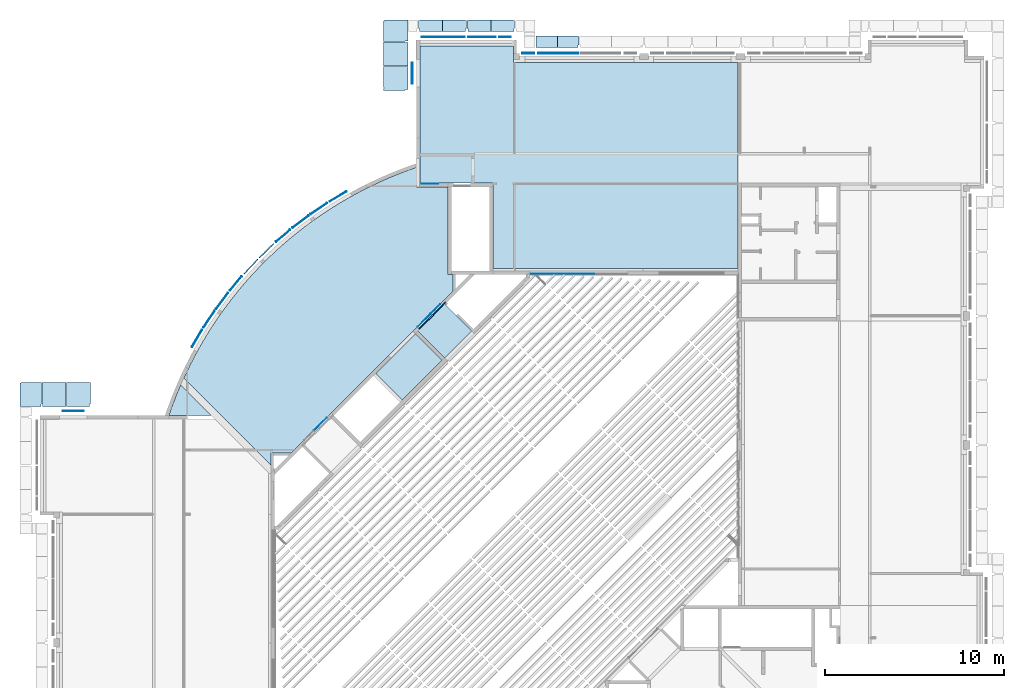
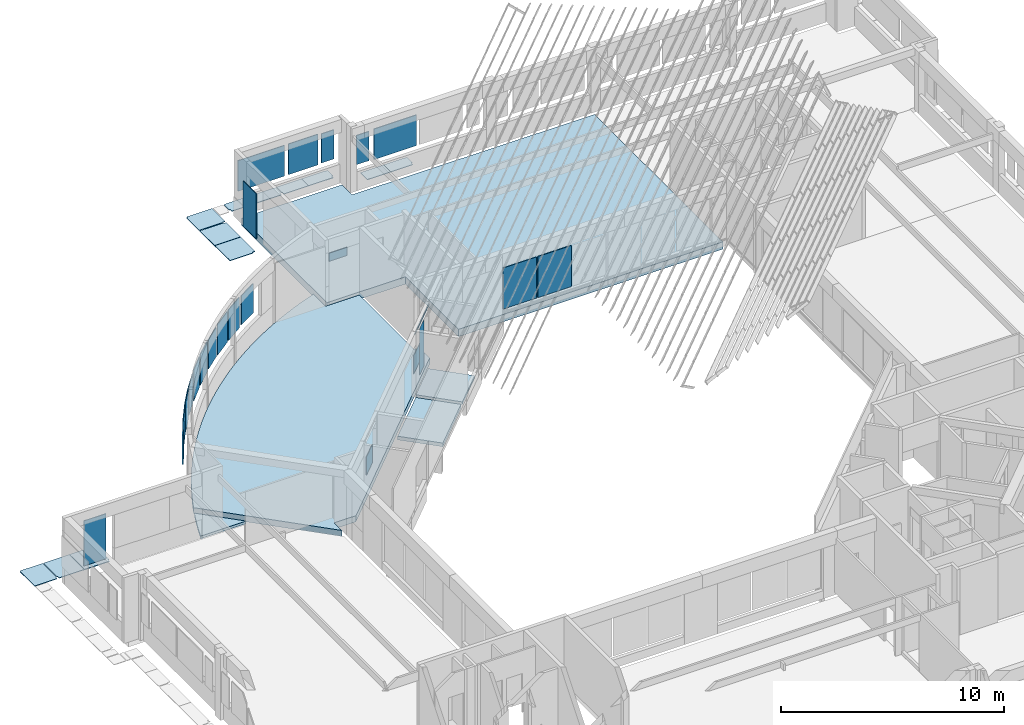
# One storey, part 20 of 37: 24 plates, 17 slabs, 1 element without a shape of its own.
"""IFC4X3_ADD2 building model written with IfcOpenShell, lengths in millimetres."""

from ifc_helpers import new_model, si_unit, point, direction, frame, frame_2d, origin_with_axes, origin_2d_with_axis, place, context, subcontext, project, spatial, polyline, circle_curve, trimmed, segment, composite_curve, rectangle, outline, extrude, source, transform, mapped, material, type_object, element, aggregate, save


model = new_model("IFC4X3_ADD2")

# Units and contexts
model_context = context("Model", 3, precision=1e-05, world=origin_with_axes(), true_north=direction((0.0, 1.0)))
body_context = subcontext(model_context, "Body", "Model", "MODEL_VIEW")
ifc_project = project(units=[si_unit("LENGTHUNIT", "METRE", prefix="MILLI"), si_unit("AREAUNIT", "SQUARE_METRE"), si_unit("VOLUMEUNIT", "CUBIC_METRE"), si_unit("PLANEANGLEUNIT", "RADIAN"), si_unit("TIMEUNIT", "SECOND"), si_unit("MASSUNIT", "GRAM")], contexts=[model_context])

# Site, building, storey
site_placement = place(None, origin_with_axes())
site = spatial("IfcSite", under=ifc_project, at=site_placement, Name="Site", CompositionType="ELEMENT")
building_placement = place(site_placement, origin_with_axes())
building = spatial("IfcBuilding", under=site, at=building_placement, Name="IFC Building Story")
storey_placement = place(building_placement, frame((0.0, 0.0, 3600.0), z_axis=(0.0, 0.0, 1.0), x_axis=(1.0, 0.0, 0.0)))
storey = spatial("IfcBuildingStorey", under=building, at=storey_placement, Name="010", Elevation=3600.0)

# Slabs
ifc_material_1 = material(Name="BB_Beton_Bestaand")
slab_type_1 = type_object("IfcSlabType", Name="BB_Beton_Bestaand 200", PredefinedType="FLOOR", material=ifc_material_1)
slab_1_placement = place(storey_placement, frame((-30719.00667860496, 35293.98755288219, -400.0), z_axis=(0.0, 0.0, 1.0), x_axis=(-0.7071067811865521, -0.707106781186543, 0.0)))
element("IfcSlab", 1, at=slab_1_placement, inside=storey, type_object=slab_type_1, Name="Floor:BB_XX_Vloer uit beton, 200 mm", ObjectType="Floor:BB_XX_Vloer uit beton, 200 mm", PredefinedType="FLOOR", context=body_context, shape_type="SweptSolid", body=[
    extrude(rectangle(XDim=3139.999999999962, YDim=2099.99999999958, at=frame_2d((0.0, 0.0), x_axis=(-1.0, 0.0))), frame((1569.999999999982, 1049.999999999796, 0.0), z_axis=(0.0, 0.0, 1.0), x_axis=(1.0, 0.0, 0.0)), (0.0, 0.0, 1.0), 200.0),
])
slab_type_2 = type_object("IfcSlabType", Name="BB_Beton_Bestaand 400", PredefinedType="FLOOR", material=ifc_material_1)
slab_2_placement = place(storey_placement, frame((-30470.00000006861, 38945.00000000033, -600.0), z_axis=(0.0, 0.0, 1.0), x_axis=(1.0, 0.0, 0.0)))
element("IfcSlab", 2, at=slab_2_placement, inside=storey, type_object=slab_type_2, Name="Floor:BB_XX_Vloer welfsels, 400 mm", ObjectType="Floor:BB_XX_Vloer welfsels, 400 mm", PredefinedType="FLOOR", context=body_context, shape_type="SweptSolid", body=[
    extrude(outline(polyline([(-2692.49898351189, -7168.749999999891), (-2692.498983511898, -2413.749999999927), (-6762.498983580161, -2413.749999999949), (-6762.498983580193, 5241.24999999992), (-1552.498983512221, 5241.249999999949), (-1552.498983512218, 4341.249999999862), (11007.49695060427, 4341.24999999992), (11007.49695060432, -7168.749999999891), (-2692.49898351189, -7168.749999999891)])), frame((6762.49898358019, 7168.749999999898, 0.0), z_axis=(0.0, 0.0, 1.0), x_axis=(1.0, 0.0, 0.0)), (0.0, 0.0, 1.0), 400.0),
])

# Plates
ifc_material_2 = material(Name="BB_Metaal_Aluminium_Buitenschrijnwerk")
shared_shape_1 = source(origin_with_axes(), body_context, "Body", "SweptSolid", [
    extrude(rectangle(XDim=2473.0, YDim=1164.000000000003, at=frame_2d((0.0, 0.0), x_axis=(0.0, 1.0))), frame((0.0, 0.0, -44.0), z_axis=(0.0, 0.0, 1.0), x_axis=(1.0, 0.0, 0.0)), (0.0, 0.0, 1.0), 44.0),
])
plate_1_placement = place(storey_placement, frame((-30932.4999999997, 49845.0, 1323.49999999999), z_axis=(-1.0, 0.0, 0.0), x_axis=(0.0, 1.0, 0.0)))
element("IfcPlate", 3, at=plate_1_placement, inside=storey, material=ifc_material_2, Name="BB_07.06_Buitenbeglazing, rechthoekig_GMO:07.04.63#01_Vulpaneel, 44 mm", ObjectType="BB_07.06_Buitenbeglazing, rechthoekig_GMO:07.04.63#01_Vulpaneel, 44 mm", PredefinedType="USERDEFINED", context=body_context, shape_type="MappedRepresentation", body=[
    mapped(shared_shape_1, transform((0.0, 0.0, 0.0))),
])
shared_shape_2 = source(origin_with_axes(), body_context, "Body", "SweptSolid", [
    extrude(rectangle(XDim=2473.0, YDim=1164.000000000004, at=frame_2d((0.0, 0.0), x_axis=(0.0, 1.0))), frame((0.0, 0.0, -44.0), z_axis=(0.0, 0.0, 1.0), x_axis=(1.0, 0.0, 0.0)), (0.0, 0.0, 1.0), 44.0),
])
plate_2_placement = place(storey_placement, frame((-49845.0, 30997.5000000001, 1323.49999999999), z_axis=(0.0, 1.0, 0.0), x_axis=(-1.0, 0.0, 0.0)))
element("IfcPlate", 4, at=plate_2_placement, inside=storey, material=ifc_material_2, Name="BB_07.06_Buitenbeglazing, rechthoekig_GMO:07.04.63#01_Vulpaneel, 44 mm", ObjectType="BB_07.06_Buitenbeglazing, rechthoekig_GMO:07.04.63#01_Vulpaneel, 44 mm", PredefinedType="USERDEFINED", context=body_context, shape_type="MappedRepresentation", body=[
    mapped(shared_shape_2, transform((0.0, 0.0, 0.0))),
])
ifc_material_3 = material(Name="BB_Glas")
shared_shape_3 = source(origin_with_axes(), body_context, "Body", "SweptSolid", [
    extrude(rectangle(XDim=1602.000000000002, YDim=652.000000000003, at=frame_2d((0.0, 0.0), x_axis=(0.0, 1.0))), frame((0.0, 0.0, -44.0), z_axis=(0.0, 0.0, 1.0), x_axis=(1.0, 0.0, 0.0)), (0.0, 0.0, 1.0), 44.0),
])
plate_3_placement = place(storey_placement, frame((-25729.0, 51887.5000000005, 1765.0), z_axis=(0.0, 1.0, 0.0), x_axis=(-1.0, 0.0, 0.0)))
element("IfcPlate", 5, at=plate_3_placement, inside=storey, material=ifc_material_3, Name="BB_07.06_Buitenbeglazing, rechthoekig_GMO:07.06.72#01_Drievoudige beglazing, 44 mm, A/A*/A", ObjectType="BB_07.06_Buitenbeglazing, rechthoekig_GMO:07.06.72#01_Drievoudige beglazing, 44 mm, A/A*/A", PredefinedType="USERDEFINED", context=body_context, shape_type="MappedRepresentation", body=[
    mapped(shared_shape_3, transform((0.0, 0.0, 0.0))),
])
shared_shape_4 = source(origin_with_axes(), body_context, "Body", "SweptSolid", [
    extrude(rectangle(XDim=1602.000000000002, YDim=652.0000000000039, at=frame_2d((0.0, 0.0), x_axis=(0.0, 1.0))), frame((0.0, 0.0, -44.0), z_axis=(0.0, 0.0, 1.0), x_axis=(1.0, 0.0, 0.0)), (0.0, 0.0, 1.0), 44.0),
])
plate_4_placement = place(storey_placement, frame((-24421.0, 50987.5000000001, 1765.0), z_axis=(0.0, 1.0, 0.0), x_axis=(1.0, 0.0, 0.0)))
element("IfcPlate", 6, at=plate_4_placement, inside=storey, material=ifc_material_3, Name="BB_07.06_Buitenbeglazing, rechthoekig_GMO:07.06.72#01_Drievoudige beglazing, 44 mm, A/A*/A", ObjectType="BB_07.06_Buitenbeglazing, rechthoekig_GMO:07.06.72#01_Drievoudige beglazing, 44 mm, A/A*/A", PredefinedType="USERDEFINED", context=body_context, shape_type="MappedRepresentation", body=[
    mapped(shared_shape_4, transform((0.0, 0.0, 0.0))),
])
shared_shape_5 = source(origin_with_axes(), body_context, "Body", "SweptSolid", [
    extrude(rectangle(XDim=1680.000000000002, YDim=1532.000000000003, at=frame_2d((0.0, 0.0), x_axis=(0.0, 1.0))), frame((0.0, 0.0, -44.0), z_axis=(0.0, 0.0, 1.0), x_axis=(1.0, 0.0, 0.0)), (0.0, 0.0, 1.0), 44.0),
])
plate_5_placement = place(storey_placement, frame((-26999.0, 51887.5000000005, 1765.0), z_axis=(0.0, 1.0, 0.0), x_axis=(-1.0, 0.0, 0.0)))
element("IfcPlate", 7, at=plate_5_placement, inside=storey, material=ifc_material_3, Name="BB_07.06_Buitenbeglazing, rechthoekig_GMO:07.06.72#01_Drievoudige beglazing, 44 mm, A/A*/A", ObjectType="BB_07.06_Buitenbeglazing, rechthoekig_GMO:07.06.72#01_Drievoudige beglazing, 44 mm, A/A*/A", PredefinedType="USERDEFINED", context=body_context, shape_type="MappedRepresentation", body=[
    mapped(shared_shape_5, transform((0.0, 0.0, 0.0))),
])
shared_shape_6 = source(origin_with_axes(), body_context, "Body", "SweptSolid", [
    extrude(rectangle(XDim=2400.0, YDim=1680.000000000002, at=origin_2d_with_axis()), frame((0.0, 0.0, -44.0), z_axis=(0.0, 0.0, 1.0), x_axis=(1.0, 0.0, 0.0)), (0.0, 0.0, 1.0), 44.0),
])
plate_6_placement = place(storey_placement, frame((-29165.0, 51887.5000000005, 1765.0), z_axis=(0.0, 1.0, 0.0), x_axis=(-1.0, 0.0, 0.0)))
element("IfcPlate", 8, at=plate_6_placement, inside=storey, material=ifc_material_3, Name="BB_07.06_Buitenbeglazing, rechthoekig_GMO:07.06.72#01_Drievoudige beglazing, 44 mm, A/A*/A", ObjectType="BB_07.06_Buitenbeglazing, rechthoekig_GMO:07.06.72#01_Drievoudige beglazing, 44 mm, A/A*/A", PredefinedType="USERDEFINED", context=body_context, shape_type="MappedRepresentation", body=[
    mapped(shared_shape_6, transform((0.0, 0.0, 0.0))),
])
shared_shape_7 = source(origin_with_axes(), body_context, "Body", "SweptSolid", [
    extrude(rectangle(XDim=2222.0, YDim=1680.000000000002, at=origin_2d_with_axis()), frame((0.0, 0.0, -44.0), z_axis=(0.0, 0.0, 1.0), x_axis=(1.0, 0.0, 0.0)), (0.0, 0.0, 1.0), 44.0),
])
plate_7_placement = place(storey_placement, frame((-22746.0, 50987.5000000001, 1765.0), z_axis=(0.0, 1.0, 0.0), x_axis=(1.0, 0.0, 0.0)))
element("IfcPlate", 9, at=plate_7_placement, inside=storey, material=ifc_material_3, Name="BB_07.06_Buitenbeglazing, rechthoekig_GMO:07.06.72#01_Drievoudige beglazing, 44 mm, A/A*/A", ObjectType="BB_07.06_Buitenbeglazing, rechthoekig_GMO:07.06.72#01_Drievoudige beglazing, 44 mm, A/A*/A", PredefinedType="USERDEFINED", context=body_context, shape_type="MappedRepresentation", body=[
    mapped(shared_shape_7, transform((0.0, 0.0, 0.0))),
])
shared_shape_8 = source(origin_with_axes(), body_context, "Body", "SweptSolid", [
    extrude(rectangle(XDim=1680.000000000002, YDim=1108.000000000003, at=frame_2d((0.0, 0.0), x_axis=(0.0, 1.0))), frame((0.0, 0.0, -44.0), z_axis=(0.0, 0.0, 1.0), x_axis=(1.0, 0.0, 0.0)), (0.0, 0.0, 1.0), 44.0),
])
for number, where, z_axis, x_axis in (
    (10, (-39063.4324800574, 39946.1443111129, 1765.0), (-0.6895881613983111, 0.7242017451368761, 0.0), (-0.7242017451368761, -0.6895881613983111, 0.0)),
    (11, (-37157.2787877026, 41567.0720494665, 1765.0), (-0.6041911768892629, 0.7968393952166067, 0.0), (-0.7968393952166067, -0.6041911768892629, 0.0)),
    (12, (-36138.2706404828, 42296.187213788, 1765.0), (-0.5591648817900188, 0.8290564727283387, 0.0), (-0.8290564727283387, -0.5591648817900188, 0.0)),
):
    element("IfcPlate", number, at=place(storey_placement, frame(where, z_axis=z_axis, x_axis=x_axis)), inside=storey, material=ifc_material_3, Name="BB_07.06_Buitenbeglazing, rechthoekig_GMO:07.06.72#01_Drievoudige beglazing, 44 mm, A/A*/A", ObjectType="BB_07.06_Buitenbeglazing, rechthoekig_GMO:07.06.72#01_Drievoudige beglazing, 44 mm, A/A*/A", PredefinedType="USERDEFINED", context=body_context, shape_type="MappedRepresentation", body=[
        mapped(shared_shape_8, transform((0.0, 0.0, 0.0))),
    ])
shared_shape_9 = source(origin_with_axes(), body_context, "Body", "SweptSolid", [
    extrude(rectangle(XDim=1602.000000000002, YDim=1030.000000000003, at=frame_2d((0.0, 0.0), x_axis=(0.0, 1.0))), frame((0.0, 0.0, -44.0), z_axis=(0.0, 0.0, 1.0), x_axis=(1.0, 0.0, 0.0)), (0.0, 0.0, 1.0), 44.0),
])
plate_8_placement = place(storey_placement, frame((-38131.9654502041, 40784.1719647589, 1765.0), z_axis=(-0.647662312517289, 0.761927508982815, 0.0), x_axis=(-0.761927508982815, -0.647662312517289, 0.0)))
element("IfcPlate", 13, at=plate_8_placement, inside=storey, material=ifc_material_3, Name="BB_07.06_Buitenbeglazing, rechthoekig_GMO:07.06.72#01_Drievoudige beglazing, 44 mm, A/A*/A", ObjectType="BB_07.06_Buitenbeglazing, rechthoekig_GMO:07.06.72#01_Drievoudige beglazing, 44 mm, A/A*/A", PredefinedType="USERDEFINED", context=body_context, shape_type="MappedRepresentation", body=[
    mapped(shared_shape_9, transform((0.0, 0.0, 0.0))),
])
shared_shape_10 = source(origin_with_axes(), body_context, "Body", "SweptSolid", [
    extrude(rectangle(XDim=1680.000000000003, YDim=1108.000000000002, at=frame_2d((0.0, 0.0), x_axis=(0.0, 1.0))), frame((0.0, 0.0, -44.0), z_axis=(0.0, 0.0, 1.0), x_axis=(1.0, 0.0, 0.0)), (0.0, 0.0, 1.0), 44.0),
])
for number, where, z_axis, x_axis in (
    (14, (-39944.561209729, 39059.3447265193, 1765.0), (-0.7286114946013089, 0.6849272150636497, 0.0), (0.6849272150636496, 0.7286114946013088, 0.0)),
    (15, (-41553.1427959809, 37142.7757453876, 1765.0), (-0.8007150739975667, 0.5990453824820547, 0.0), (0.5990453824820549, 0.8007150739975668, 0.0)),
    (16, (-42275.6803685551, 36119.0892741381, 1765.0), (-0.83263998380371, 0.553814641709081, 0.0), (0.553814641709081, 0.83263998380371, 0.0)),
):
    element("IfcPlate", number, at=place(storey_placement, frame(where, z_axis=z_axis, x_axis=x_axis)), inside=storey, material=ifc_material_3, Name="BB_07.06_Buitenbeglazing, rechthoekig_GMO:07.06.72#01_Drievoudige beglazing, 44 mm, A/A*/A", ObjectType="BB_07.06_Buitenbeglazing, rechthoekig_GMO:07.06.72#01_Drievoudige beglazing, 44 mm, A/A*/A", PredefinedType="USERDEFINED", context=body_context, shape_type="MappedRepresentation", body=[
        mapped(shared_shape_10, transform((0.0, 0.0, 0.0))),
    ])
shared_shape_11 = source(origin_with_axes(), body_context, "Body", "SweptSolid", [
    extrude(rectangle(XDim=1602.000000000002, YDim=1030.000000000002, at=frame_2d((0.0, 0.0), x_axis=(0.0, 1.0))), frame((0.0, 0.0, -44.0), z_axis=(0.0, 0.0, 1.0), x_axis=(1.0, 0.0, 0.0)), (0.0, 0.0, 1.0), 44.0),
])
plate_9_placement = place(storey_placement, frame((-40776.5486042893, 38122.5060726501, 1765.0), z_axis=(-0.7661062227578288, 0.642713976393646, 0.0), x_axis=(0.642713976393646, 0.7661062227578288, 0.0)))
element("IfcPlate", 17, at=plate_9_placement, inside=storey, material=ifc_material_3, Name="BB_07.06_Buitenbeglazing, rechthoekig_GMO:07.06.72#01_Drievoudige beglazing, 44 mm, A/A*/A", ObjectType="BB_07.06_Buitenbeglazing, rechthoekig_GMO:07.06.72#01_Drievoudige beglazing, 44 mm, A/A*/A", PredefinedType="USERDEFINED", context=body_context, shape_type="MappedRepresentation", body=[
    mapped(shared_shape_11, transform((0.0, 0.0, 0.0))),
])
shared_shape_12 = source(origin_with_axes(), body_context, "Body", "SweptSolid", [
    extrude(rectangle(XDim=1602.000000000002, YDim=1096.000000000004, at=frame_2d((0.0, 0.0), x_axis=(0.0, 1.0))), frame((0.0, 0.0, -44.0), z_axis=(0.0, 0.0, 1.0), x_axis=(1.0, 0.0, 0.0)), (0.0, 0.0, 1.0), 44.0),
])
plate_10_placement = place(storey_placement, frame((-35052.9452503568, 42983.1140551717, 1765.0), z_axis=(-0.5114280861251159, 0.8593260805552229, 0.0), x_axis=(0.8593260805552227, 0.5114280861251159, 0.0)))
element("IfcPlate", 18, at=plate_10_placement, inside=storey, material=ifc_material_3, Name="BB_07.06_Buitenbeglazing, rechthoekig_GMO:07.06.72#01_Drievoudige beglazing, 44 mm, A/A*/A", ObjectType="BB_07.06_Buitenbeglazing, rechthoekig_GMO:07.06.72#01_Drievoudige beglazing, 44 mm, A/A*/A", PredefinedType="USERDEFINED", context=body_context, shape_type="MappedRepresentation", body=[
    mapped(shared_shape_12, transform((0.0, 0.0, 0.0))),
])
shared_shape_13 = source(origin_with_axes(), body_context, "Body", "SweptSolid", [
    extrude(rectangle(XDim=1602.000000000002, YDim=1096.000000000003, at=frame_2d((0.0, 0.0), x_axis=(0.0, 1.0))), frame((0.0, 0.0, -44.0), z_axis=(0.0, 0.0, 1.0), x_axis=(1.0, 0.0, 0.0)), (0.0, 0.0, 1.0), 44.0),
])
plate_11_placement = place(storey_placement, frame((-42955.5616505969, 35029.4203907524, 1765.0), z_axis=(-0.8626056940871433, 0.5058768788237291, 0.0), x_axis=(-0.5058768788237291, -0.8626056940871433, 0.0)))
element("IfcPlate", 19, at=plate_11_placement, inside=storey, material=ifc_material_3, Name="BB_07.06_Buitenbeglazing, rechthoekig_GMO:07.06.72#01_Drievoudige beglazing, 44 mm, A/A*/A", ObjectType="BB_07.06_Buitenbeglazing, rechthoekig_GMO:07.06.72#01_Drievoudige beglazing, 44 mm, A/A*/A", PredefinedType="USERDEFINED", context=body_context, shape_type="MappedRepresentation", body=[
    mapped(shared_shape_13, transform((0.0, 0.0, 0.0))),
])
shared_shape_14 = source(origin_with_axes(), body_context, "Body", "SweptSolid", [
    extrude(rectangle(XDim=2256.0, YDim=1736.000000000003, at=frame_2d((0.0, 0.0), x_axis=(0.0, 1.0))), frame((0.0, 0.0, -17.0), z_axis=(0.0, 0.0, 1.0), x_axis=(1.0, 0.0, 0.0)), (0.0, 0.0, 1.0), 17.0),
])
for number, where, z_axis, x_axis in (
    (20, (-21600.0, 38633.5000000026, 1475.0), (0.0, -1.0, 0.0), (-1.0, 0.0, 0.0)),
    (21, (-23400.0, 38633.5000000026, 1475.0), (0.0, -1.0, 0.0), (-1.0, 0.0, 0.0)),
):
    element("IfcPlate", number, at=place(storey_placement, frame(where, z_axis=z_axis, x_axis=x_axis)), inside=storey, material=ifc_material_3, Name="BB_10.10_Binnenbeglazing, rechthoekig_GMO:10.10.41#02_Enkelvoudige beglazing, 2B2, EI30, 40dB", ObjectType="BB_10.10_Binnenbeglazing, rechthoekig_GMO:10.10.41#02_Enkelvoudige beglazing, 2B2, EI30, 40dB", PredefinedType="USERDEFINED", context=body_context, shape_type="MappedRepresentation", body=[
        mapped(shared_shape_14, transform((0.0, 0.0, 0.0))),
    ])
shared_shape_15 = source(origin_with_axes(), body_context, "Body", "SweptSolid", [
    extrude(rectangle(XDim=928.000000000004, YDim=454.000000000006, at=origin_2d_with_axis()), frame((0.0, 0.0, -17.0), z_axis=(0.0, 0.0, 1.0), x_axis=(1.0, 0.0, 0.0)), (0.0, 0.0, 1.0), 17.0),
])
plate_12_placement = place(storey_placement, frame((-29915.0, 43683.0, 2284.0), z_axis=(0.0, 1.0, 0.0), x_axis=(1.0, 0.0, 0.0)))
element("IfcPlate", 22, at=plate_12_placement, inside=storey, material=ifc_material_3, Name="BB_10.10_Binnenbeglazing, rechthoekig_GMO:XX_Geen", ObjectType="BB_10.10_Binnenbeglazing, rechthoekig_GMO:XX_Geen", PredefinedType="USERDEFINED", context=body_context, shape_type="MappedRepresentation", body=[
    mapped(shared_shape_15, transform((0.0, 0.0, 0.0))),
])
shared_shape_16 = source(origin_with_axes(), body_context, "Body", "SweptSolid", [
    extrude(rectangle(XDim=2554.0, YDim=754.000000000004, at=frame_2d((0.0, 0.0), x_axis=(0.0, 1.0))), frame((0.0, 0.0, -17.0), z_axis=(0.0, 0.0, 1.0), x_axis=(1.0, 0.0, 0.0)), (0.0, 0.0, 1.0), 17.0),
])
plate_13_placement = place(storey_placement, frame((-29618.041420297, 36682.0381643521, 1335.0), z_axis=(-0.7071067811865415, 0.7071067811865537, 0.0), x_axis=(-0.7071067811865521, -0.707106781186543, 0.0)))
element("IfcPlate", 23, at=plate_13_placement, inside=storey, material=ifc_material_3, Name="BB_10.10_Binnenbeglazing, rechthoekig_GMO:10.10.41#01_Enkelvoudige beglazing, 2B2, EI30", ObjectType="BB_10.10_Binnenbeglazing, rechthoekig_GMO:10.10.41#01_Enkelvoudige beglazing, 2B2, EI30", PredefinedType="USERDEFINED", context=body_context, shape_type="MappedRepresentation", body=[
    mapped(shared_shape_16, transform((0.0, 0.0, 0.0))),
])
shared_shape_17 = source(origin_with_axes(), body_context, "Body", "SweptSolid", [
    extrude(rectangle(XDim=1000.000000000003, YDim=1000.000000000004, at=origin_2d_with_axis()), frame((0.0, 0.0, -20.0), z_axis=(0.0, 0.0, 1.0), x_axis=(1.0, 0.0, 0.0)), (0.0, 0.0, 1.0), 20.0),
])
plate_14_placement = place(storey_placement, frame((-36047.0562748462, 30253.023309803, 1310.0), z_axis=(-0.7071067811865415, 0.7071067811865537, 0.0), x_axis=(0.7071067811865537, 0.7071067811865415, 0.0)))
element("IfcPlate", 24, at=plate_14_placement, inside=storey, material=ifc_material_3, Name="BB_07.06_Buitenbeglazing, rechthoekig_GMO:Enkel gelaagd, 20 mm", ObjectType="BB_07.06_Buitenbeglazing, rechthoekig_GMO:Enkel gelaagd, 20 mm", PredefinedType="USERDEFINED", context=body_context, shape_type="MappedRepresentation", body=[
    mapped(shared_shape_17, transform((0.0, 0.0, 0.0))),
])
shared_shape_18 = source(origin_with_axes(), body_context, "Body", "SweptSolid", [
    extrude(rectangle(XDim=1000.000000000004, YDim=1000.000000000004, at=frame_2d((0.0, 0.0), x_axis=(0.0, 1.0))), frame((0.0, 0.0, -20.0), z_axis=(0.0, 0.0, 1.0), x_axis=(1.0, 0.0, 0.0)), (0.0, 0.0, 1.0), 20.0),
])
plate_15_placement = place(storey_placement, frame((-30253.0233098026, 36047.0562748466, 1310.0), z_axis=(-0.7071067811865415, 0.7071067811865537, 0.0), x_axis=(-0.7071067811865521, -0.707106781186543, 0.0)))
element("IfcPlate", 25, at=plate_15_placement, inside=storey, material=ifc_material_3, Name="BB_07.06_Buitenbeglazing, rechthoekig_GMO:Enkel gelaagd, 20 mm", ObjectType="BB_07.06_Buitenbeglazing, rechthoekig_GMO:Enkel gelaagd, 20 mm", PredefinedType="USERDEFINED", context=body_context, shape_type="MappedRepresentation", body=[
    mapped(shared_shape_18, transform((0.0, 0.0, 0.0))),
])

# Slabs
slab_type_3 = type_object("IfcSlabType", Name="BB_Beton_Bestaand 150", PredefinedType="FLOOR", material=ifc_material_1)
slab_3_placement = place(storey_placement, frame((-30611.88000125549, 35469.70358800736, -350.0), z_axis=(0.0, 0.0, 1.0), x_axis=(0.7071067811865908, -0.7071067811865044, 0.0)))
element("IfcSlab", 26, at=slab_3_placement, inside=storey, type_object=slab_type_3, Name="Floor:BB_XX_Vloer uit beton, 150 mm", ObjectType="Floor:BB_XX_Vloer uit beton, 150 mm", PredefinedType="FLOOR", context=body_context, shape_type="SweptSolid", body=[
    extrude(rectangle(XDim=2158.526617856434, YDim=2130.000000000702, at=frame_2d((0.0, 0.0), x_axis=(-1.0, 0.0))), frame((1079.263308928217, 1065.000000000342, 0.0), z_axis=(0.0, 0.0, 1.0), x_axis=(1.0, 0.0, 0.0)), (0.0, 0.0, 1.0), 150.0),
])
slab_4_placement = place(storey_placement, frame((-45026.86767014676, 31248.34122802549, -350.0), z_axis=(0.0, 0.0, 1.0), x_axis=(0.7071067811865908, -0.7071067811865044, 0.0)))
element("IfcSlab", 27, at=slab_4_placement, inside=storey, type_object=slab_type_3, Name="Floor:BB_XX_Vloer uit beton, 150 mm", ObjectType="Floor:BB_XX_Vloer uit beton, 150 mm", PredefinedType="FLOOR", context=body_context, shape_type="SweptSolid", body=[
    extrude(outline(composite_curve([segment(trimmed(circle_curve(origin_2d_with_axis(), 22000.00000010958), [point((-19714.94070739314, -9763.253192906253))], [point((-20455.55344290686, -8097.551071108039))], False, "CARTESIAN"), True, "CONTINUOUS"), segment(polyline([(-20455.55344290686, -8097.551071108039), (-18049.23858559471, -8097.551071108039)]), True, "CONTINUOUS"), segment(polyline([(-18049.23858559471, -8097.551071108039), (-19714.94070739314, -9763.253192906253)]), True, "CONTINUOUS")], self_intersect=False)), frame((20455.55344290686, 9763.253192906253, 0.0), z_axis=(0.0, 0.0, 1.0), x_axis=(1.0, 0.0, 0.0)), (0.0, 0.0, 1.0), 150.0),
])
slab_type_4 = type_object("IfcSlabType", Name="BB_Beton_Bestaand 330", PredefinedType="FLOOR", material=ifc_material_1)
slab_5_placement = place(storey_placement, frame((-31933.09336828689, 46534.62937304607, -530.0), z_axis=(0.0, 0.0, 1.0), x_axis=(-0.7072857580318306, -0.7069277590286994, 0.0)))
element("IfcSlab", 28, at=slab_5_placement, inside=storey, type_object=slab_type_4, Name="Floor:BB_XX_Vloer welfsels, 330 mm", ObjectType="Floor:BB_XX_Vloer welfsels, 330 mm", PredefinedType="FLOOR", context=body_context, shape_type="SweptSolid", body=[
    extrude(outline(composite_curve([segment(polyline([(-5434.011796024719, 1453.782794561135), (-5629.222665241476, 1648.894856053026)]), True, "CONTINUOUS"), segment(polyline([(-5629.222665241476, 1648.894856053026), (-4968.082576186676, 2310.369756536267)]), True, "CONTINUOUS"), segment(polyline([(-4968.082576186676, 2310.369756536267), (-2010.295812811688, 2311.118501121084)]), True, "CONTINUOUS"), segment(polyline([(-2010.295812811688, 2311.118501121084), (-2010.294547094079, 2306.118501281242)]), True, "CONTINUOUS"), segment(polyline([(-2010.294547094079, 2306.118501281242), (4859.705232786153, 2307.85759728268)]), True, "CONTINUOUS"), segment(polyline([(4859.705232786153, 2307.85759728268), (4859.703967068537, 2312.857597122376)]), True, "CONTINUOUS"), segment(polyline([(4859.703967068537, 2312.857597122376), (7817.490730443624, 2313.606341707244)]), True, "CONTINUOUS"), segment(polyline([(7817.490730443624, 2313.606341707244), (8616.889229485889, 1514.612465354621)]), True, "CONTINUOUS"), segment(polyline([(8616.889229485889, 1514.612465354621), (9101.970676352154, 1999.939564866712)]), True, "CONTINUOUS"), segment(polyline([(9101.970676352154, 1999.939564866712), (9101.97067635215, -4889.464176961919)]), True, "CONTINUOUS"), segment(trimmed(circle_curve(frame_2d((1344.730283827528, 15697.5516702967), x_axis=(1.0, 0.0)), 22000.00000006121), [point((9101.97067635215, -4889.464176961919))], [point((671.426053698, -6292.142766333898))], False, "CARTESIAN"), True, "CONTINUOUS"), segment(trimmed(circle_curve(frame_2d((1349.57128012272, 15855.6555771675), x_axis=(1.0, 0.0)), 22158.17800299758), [point((671.426053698, -6292.142766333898))], [point((-8426.15072390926, -4029.517585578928))], False, "CARTESIAN"), True, "CONTINUOUS"), segment(polyline([(-8426.15072390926, -4029.517585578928), (-7653.137755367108, -3256.113151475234)]), True, "CONTINUOUS"), segment(polyline([(-7653.137755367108, -3256.113151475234), (-8897.960689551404, -2011.920295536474)]), True, "CONTINUOUS"), segment(polyline([(-8897.960689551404, -2011.920295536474), (-5434.011796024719, 1453.782794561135)]), True, "CONTINUOUS")], self_intersect=False)), frame((8897.960689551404, 6302.448329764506, 0.0), z_axis=(0.0, 0.0, 1.0), x_axis=(1.0, 0.0, 0.0)), (0.0, 0.0, 1.0), 330.0),
])

# Assembly, plate
assembly_placement = place(storey_placement, frame((0.0, 0.0, -3600.0), z_axis=(0.0, 0.0, 1.0), x_axis=(1.0, 0.0, 0.0)))
assembly = element("IfcElementAssembly", 29, at=assembly_placement, inside=storey, Name="Structural Connections Assembly:IPE360 + plaat", ObjectType="Structural Connections Assembly:IPE360 + plaat", AssemblyPlace="NOTDEFINED", PredefinedType="USERDEFINED")
ifc_material_4 = material(Name="BB_Schrijnwerk_Aluminium")
shared_shape_19 = source(origin_with_axes(), body_context, "Body", "SweptSolid", [
    extrude(rectangle(XDim=2419.99999999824, YDim=65.00000000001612, at=frame_2d((0.0, 0.0), x_axis=(0.7071067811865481, 0.7071067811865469))), frame((878.580175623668, 878.5801756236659, 0.0), z_axis=(0.0, 0.0, 1.0), x_axis=(1.0, 0.0, 0.0)), (0.0, 0.0, 1.0), 9.99999999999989),
])
plate_16_placement = place(assembly_placement, frame((-30785.1211626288, 35314.1400961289, 6839.50000000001), z_axis=(0.0, 0.0, 1.0), x_axis=(1.0, 0.0, 0.0)))
plate_16 = element("IfcPlate", 30, at=plate_16_placement, material=ifc_material_4, Name="plate1:plate", ObjectType="plate1:plate", PredefinedType="USERDEFINED", context=body_context, shape_type="MappedRepresentation", body=[
    mapped(shared_shape_19, transform((0.0, 0.0, 0.0))),
])
aggregate(assembly, [plate_16])

# Slabs
ifc_material_5 = material(Name="Steel, Galvanized - looprooster")
slab_type_5 = type_object("IfcSlabType", Name="Steel, Galvanized - looprooster 30", PredefinedType="FLOOR", material=ifc_material_5)
slab_6_placement = place(storey_placement, frame((-52819.99839785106, 32575.00048070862, -350.0), z_axis=(0.0, 0.0, 1.0), x_axis=(0.0, -1.0, 0.0)))
element("IfcSlab", 31, at=slab_6_placement, inside=storey, type_object=slab_type_5, Name="Floor:GVH - Looprooster 30 mm", ObjectType="Floor:GVH - Looprooster 30 mm", PredefinedType="FLOOR", context=body_context, shape_type="SweptSolid", body=[
    extrude(outline(polyline([(557.1252803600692, 565.9989790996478), (703.6241589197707, 565.9989790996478), (703.6241589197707, -603.9981599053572), (-607.8747196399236, -603.9981599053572), (-607.8747196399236, -558.9997982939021), (-652.8747196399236, -558.9997982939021), (-652.8747196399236, 596.9989790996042), (557.1252803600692, 596.9989790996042), (557.1252803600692, 565.9989790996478)])), frame((652.8747196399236, 603.9981599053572, 0.0), z_axis=(0.0, 0.0, 1.0), x_axis=(1.0, 0.0, 0.0)), (0.0, 0.0, 1.0), 30.0),
])
slab_7_placement = place(storey_placement, frame((-51581.00125884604, 32575.00048070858, -350.0), z_axis=(0.0, 0.0, 1.0), x_axis=(0.0, -1.0, 0.0)))
element("IfcSlab", 32, at=slab_7_placement, inside=storey, type_object=slab_type_5, Name="Floor:GVH - Looprooster 30 mm", ObjectType="Floor:GVH - Looprooster 30 mm", PredefinedType="FLOOR", context=body_context, shape_type="SweptSolid", body=[
    extrude(outline(polyline([(500.0000002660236, -424.6660387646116), (354.9999994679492, -424.6660387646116), (354.9999994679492, -455.6665919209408), (-854.9999997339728, -455.6665919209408), (-854.9999997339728, 880.3326306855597), (500.0000002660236, 880.3326306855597), (500.0000002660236, -424.6660387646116)])), frame((854.9999997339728, 455.6665919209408, 0.0), z_axis=(0.0, 0.0, 1.0), x_axis=(1.0, 0.0, 0.0)), (0.0, 0.0, 1.0), 30.0),
])
slab_8_placement = place(storey_placement, frame((-50233.0032588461, 32575.00048070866, -350.0), z_axis=(0.0, 0.0, 1.0), x_axis=(0.0, -1.0, 0.0)))
element("IfcSlab", 33, at=slab_8_placement, inside=storey, type_object=slab_type_5, Name="Floor:GVH - Looprooster 30 mm", ObjectType="Floor:GVH - Looprooster 30 mm", PredefinedType="FLOOR", context=body_context, shape_type="SweptSolid", body=[
    extrude(outline(polyline([(693.9996012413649, 271.6010870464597), (839.0000996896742, 271.6010870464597), (839.0000996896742, -1011.402688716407), (-515.9999003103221, -1011.402688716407), (-515.9999003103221, 166.6005338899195), (-500.9999003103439, 166.6005338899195), (-500.9999003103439, 236.6005338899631), (-515.9999003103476, 236.6005338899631), (-515.9999003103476, 336.6005338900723), (693.9996012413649, 336.6005338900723), (693.9996012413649, 271.6010870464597)])), frame((515.9999003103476, 1011.402688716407, 0.0), z_axis=(0.0, 0.0, 1.0), x_axis=(1.0, 0.0, 0.0)), (0.0, 0.0, 1.0), 30.0),
])
slab_9_placement = place(storey_placement, frame((-32510.00048070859, 51619.0012588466, -350.0), z_axis=(0.0, 0.0, 1.0), x_axis=(1.0, 0.0, 0.0)))
element("IfcSlab", 34, at=slab_9_placement, inside=storey, type_object=slab_type_5, Name="Floor:GVH - Looprooster 30 mm", ObjectType="Floor:GVH - Looprooster 30 mm", PredefinedType="FLOOR", context=body_context, shape_type="SweptSolid", body=[
    extrude(outline(polyline([(557.5000000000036, -565.9989790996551), (557.5000000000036, -596.9989790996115), (-652.5, -596.9989790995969), (-652.4999999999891, 558.9997982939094), (-607.4999999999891, 558.9997982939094), (-607.4999999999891, 603.9981599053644), (702.5000000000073, 603.9981599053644), (702.5, -565.9989790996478), (557.5000000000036, -565.9989790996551)])), frame((652.4999999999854, 596.9989790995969, 0.0), z_axis=(0.0, 0.0, 1.0), x_axis=(1.0, 0.0, 0.0)), (0.0, 0.0, 1.0), 30.0),
])
slab_10_placement = place(storey_placement, frame((-32510.00048070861, 50245.00203624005, -350.0), z_axis=(0.0, 0.0, 1.0), x_axis=(1.0, 0.0, 0.0)))
element("IfcSlab", 35, at=slab_10_placement, inside=storey, type_object=slab_type_5, Name="Floor:GVH - Looprooster 30 mm", ObjectType="Floor:GVH - Looprooster 30 mm", PredefinedType="FLOOR", context=body_context, shape_type="SweptSolid", body=[
    extrude(outline(polyline([(499.9999999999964, 424.6660387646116), (500.0000000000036, -880.3326306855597), (-854.9999999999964, -880.3326306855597), (-855.0000000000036, 455.6665919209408), (354.9999999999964, 455.6665919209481), (354.9999999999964, 424.6660387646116), (499.9999999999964, 424.6660387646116)])), frame((855.0000000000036, 880.3326306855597, 0.0), z_axis=(0.0, 0.0, 1.0), x_axis=(1.0, 0.0, 0.0)), (0.0, 0.0, 1.0), 30.0),
])
slab_11_placement = place(storey_placement, frame((-32510.00048070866, 48885.00003624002, -350.0), z_axis=(0.0, 0.0, 1.0), x_axis=(1.0, 0.0, 0.0)))
element("IfcSlab", 36, at=slab_11_placement, inside=storey, type_object=slab_type_5, Name="Floor:GVH - Looprooster 30 mm", ObjectType="Floor:GVH - Looprooster 30 mm", PredefinedType="FLOOR", context=body_context, shape_type="SweptSolid", body=[
    extrude(outline(polyline([(-500.9999003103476, -236.6005338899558), (-500.9999003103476, -166.6005338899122), (-515.9999003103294, -166.6005338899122), (-515.9999003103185, 1011.402688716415), (839.0000996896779, 1011.402688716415), (839.000099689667, -271.6010870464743), (693.9996012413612, -271.6010870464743), (693.9996012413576, -336.6005338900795), (-515.9999003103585, -336.600533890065), (-515.9999003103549, -236.6005338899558), (-500.9999003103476, -236.6005338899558)])), frame((515.9999003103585, 336.600533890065, 0.0), z_axis=(0.0, 0.0, 1.0), x_axis=(1.0, 0.0, 0.0)), (0.0, 0.0, 1.0), 30.0),
])
slab_12_placement = place(storey_placement, frame((-29214.99796376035, 52189.99839785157, -350.0), z_axis=(0.0, 0.0, 1.0), x_axis=(1.0, 0.0, 0.0)))
element("IfcSlab", 37, at=slab_12_placement, inside=storey, type_object=slab_type_5, Name="Floor:GVH - Looprooster 30 mm", ObjectType="Floor:GVH - Looprooster 30 mm", PredefinedType="FLOOR", context=body_context, shape_type="SweptSolid", body=[
    extrude(outline(polyline([(316.4995000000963, -202.5005750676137), (316.4995000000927, -347.5005750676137), (-966.4984999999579, -347.5005750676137), (-966.4984999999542, 282.4999850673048), (281.4994999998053, 282.4999850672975), (281.4994999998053, 267.5011650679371), (368.4995000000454, 267.5011650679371), (368.499500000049, -202.5005750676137), (316.4995000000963, -202.5005750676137)])), frame((966.4984999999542, 347.5005750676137, 0.0), z_axis=(0.0, 0.0, 1.0), x_axis=(1.0, 0.0, 0.0)), (0.0, 0.0, 1.0), 30.0),
])
slab_13_placement = place(storey_placement, frame((-22786.79233097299, 51289.99784916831, -350.0), z_axis=(0.0, 0.0, 1.0), x_axis=(1.0, 0.0, 0.0)))
element("IfcSlab", 38, at=slab_13_placement, inside=storey, type_object=slab_type_5, Name="Floor:GVH - Looprooster 30 mm", ObjectType="Floor:GVH - Looprooster 30 mm", PredefinedType="FLOOR", context=body_context, shape_type="SweptSolid", body=[
    extrude(outline(polyline([(284.6244499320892, -202.5005722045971), (284.6244499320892, -347.5005722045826), (-870.8735500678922, -347.5005722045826), (-870.8735500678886, 282.4994277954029), (249.6246502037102, 282.4994277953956), (249.6246502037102, 267.5017166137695), (336.6244499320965, 267.5017166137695), (336.6244499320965, -202.5005722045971), (284.6244499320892, -202.5005722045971)])), frame((870.8735500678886, 347.5005722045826, 0.0), z_axis=(0.0, 0.0, 1.0), x_axis=(1.0, 0.0, 0.0)), (0.0, 0.0, 1.0), 30.0),
])
slab_14_placement = place(storey_placement, frame((-30549.99996376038, 52189.99839785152, -350.0), z_axis=(0.0, 0.0, 1.0), x_axis=(1.0, 0.0, 0.0)))
element("IfcSlab", 39, at=slab_14_placement, inside=storey, type_object=slab_type_5, Name="Floor:GVH - Looprooster 30 mm", ObjectType="Floor:GVH - Looprooster 30 mm", PredefinedType="FLOOR", context=body_context, shape_type="SweptSolid", body=[
    extrude(outline(polyline([(-316.500450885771, -347.5005722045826), (-316.5004508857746, -202.5005722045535), (-368.5004508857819, -202.5005722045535), (-368.5004508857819, 267.5017166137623), (-281.5006473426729, 267.5017166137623), (-281.5006473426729, 282.4994277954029), (966.5015491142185, 282.4994277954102), (966.5015491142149, -347.5005722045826), (-316.500450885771, -347.5005722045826)])), frame((368.5004508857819, 347.5005722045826, 0.0), z_axis=(0.0, 0.0, 1.0), x_axis=(1.0, 0.0, 0.0)), (0.0, 0.0, 1.0), 30.0),
])
slab_15_placement = place(storey_placement, frame((-27849.99996376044, 52189.99839785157, -350.0), z_axis=(0.0, 0.0, 1.0), x_axis=(1.0, 0.0, 0.0)))
element("IfcSlab", 40, at=slab_15_placement, inside=storey, type_object=slab_type_5, Name="Floor:GVH - Looprooster 30 mm", ObjectType="Floor:GVH - Looprooster 30 mm", PredefinedType="FLOOR", context=body_context, shape_type="SweptSolid", body=[
    extrude(outline(polyline([(-316.4995000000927, -347.500575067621), (-316.4995000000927, -202.5005750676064), (-368.499500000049, -202.5005750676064), (-368.499500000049, 267.5011650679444), (-281.4994999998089, 267.5011650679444), (-281.4994999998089, 282.4999850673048), (966.498499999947, 282.4999850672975), (966.4984999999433, -347.500575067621), (-316.4995000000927, -347.500575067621)])), frame((368.499500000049, 347.500575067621, 0.0), z_axis=(0.0, 0.0, 1.0), x_axis=(1.0, 0.0, 0.0)), (0.0, 0.0, 1.0), 30.0),
])
slab_16_placement = place(storey_placement, frame((-26514.4979637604, 52189.99783771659, -350.0), z_axis=(0.0, 0.0, 1.0), x_axis=(1.0, 0.0, 0.0)))
element("IfcSlab", 41, at=slab_16_placement, inside=storey, type_object=slab_type_5, Name="Floor:GVH - Looprooster 30 mm", ObjectType="Floor:GVH - Looprooster 30 mm", PredefinedType="FLOOR", context=body_context, shape_type="SweptSolid", body=[
    extrude(outline(polyline([(316.3744499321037, -202.500575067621), (316.3744499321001, -347.5005750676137), (-966.1235500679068, -347.5005750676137), (-966.1235500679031, 282.4999850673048), (281.3746502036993, 282.4999850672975), (281.3746502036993, 267.5011650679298), (368.3744499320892, 267.5011650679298), (368.3744499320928, -202.500575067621), (316.3744499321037, -202.500575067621)])), frame((966.1235500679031, 347.5005750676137, 0.0), z_axis=(0.0, 0.0, 1.0), x_axis=(1.0, 0.0, 0.0)), (0.0, 0.0, 1.0), 30.0),
])
slab_17_placement = place(storey_placement, frame((-23996.0012588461, 51289.9983978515, -350.0), z_axis=(0.0, 0.0, 1.0), x_axis=(1.0, 0.0, 0.0)))
element("IfcSlab", 42, at=slab_17_placement, inside=storey, type_object=slab_type_5, Name="Floor:GVH - Looprooster 30 mm", ObjectType="Floor:GVH - Looprooster 30 mm", PredefinedType="FLOOR", context=body_context, shape_type="SweptSolid", body=[
    extrude(rectangle(XDim=1207.998000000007, YDim=629.9999999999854, at=origin_2d_with_axis()), frame((603.9990000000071, 314.9999999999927, 0.0), z_axis=(0.0, 0.0, 1.0), x_axis=(1.0, 0.0, 0.0)), (0.0, 0.0, 1.0), 30.0),
])

save(model, "model.ifc")
